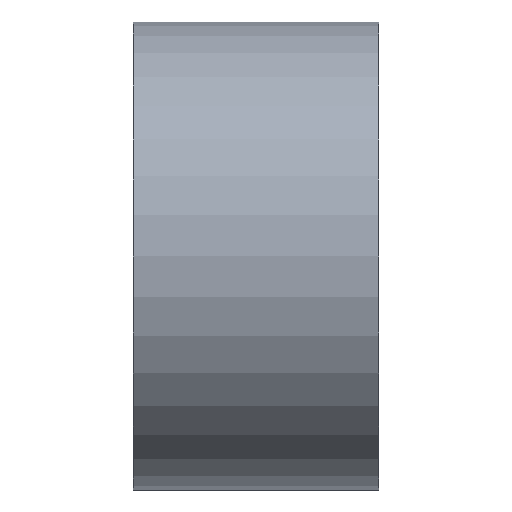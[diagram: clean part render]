
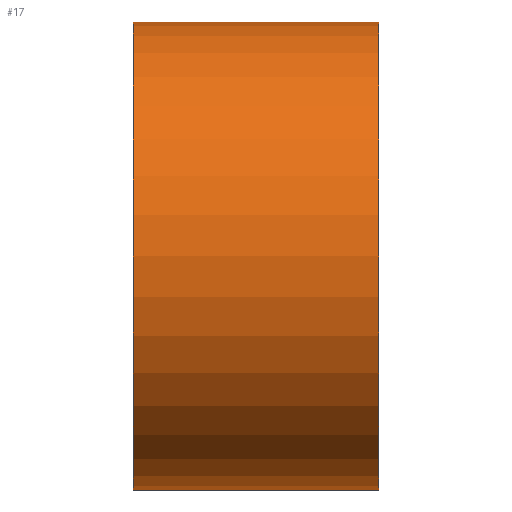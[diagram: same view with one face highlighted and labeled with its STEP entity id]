
A CAD part, front view. The second image highlights one B-rep face of the part: STEP entity #17.
In plain terms, the highlighted cylindrical face has radius 40 mm (diameter 80 mm), a full revolution.
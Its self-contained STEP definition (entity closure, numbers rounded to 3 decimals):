
#17 = ADVANCED_FACE('',(#18),#31,.T.);
#18 = FACE_BOUND('',#19,.T.);
#19 = EDGE_LOOP('',(#20,#54,#77,#104));
#20 = ORIENTED_EDGE('',*,*,#21,.F.);
#21 = EDGE_CURVE('',#22,#22,#24,.T.);
#22 = VERTEX_POINT('',#23);
#23 = CARTESIAN_POINT('',(294.,0.,-40.));
#24 = SURFACE_CURVE('',#25,(#30,#42),.PCURVE_S1.);
#25 = CIRCLE('',#26,40.);
#26 = AXIS2_PLACEMENT_3D('',#27,#28,#29);
#27 = CARTESIAN_POINT('',(294.,0.,0.));
#28 = DIRECTION('',(1.,-0.,0.));
#29 = DIRECTION('',(0.,0.,-1.));
#30 = PCURVE('',#31,#36);
#31 = CYLINDRICAL_SURFACE('',#32,40.);
#32 = AXIS2_PLACEMENT_3D('',#33,#34,#35);
#33 = CARTESIAN_POINT('',(252.,0.,0.));
#34 = DIRECTION('',(1.,0.,0.));
#35 = DIRECTION('',(0.,0.,-1.));
#36 = DEFINITIONAL_REPRESENTATION('',(#37),#41);
#37 = LINE('',#38,#39);
#38 = CARTESIAN_POINT('',(0.,42.));
#39 = VECTOR('',#40,1.);
#40 = DIRECTION('',(1.,0.));
#41 = ( GEOMETRIC_REPRESENTATION_CONTEXT(2) 
PARAMETRIC_REPRESENTATION_CONTEXT() REPRESENTATION_CONTEXT('2D SPACE',''
  ) );
#42 = PCURVE('',#43,#48);
#43 = PLANE('',#44);
#44 = AXIS2_PLACEMENT_3D('',#45,#46,#47);
#45 = CARTESIAN_POINT('',(294.,0.,0.));
#46 = DIRECTION('',(1.,0.,0.));
#47 = DIRECTION('',(0.,0.,-1.));
#48 = DEFINITIONAL_REPRESENTATION('',(#49),#53);
#49 = CIRCLE('',#50,40.);
#50 = AXIS2_PLACEMENT_2D('',#51,#52);
#51 = CARTESIAN_POINT('',(0.,0.));
#52 = DIRECTION('',(1.,0.));
#53 = ( GEOMETRIC_REPRESENTATION_CONTEXT(2) 
PARAMETRIC_REPRESENTATION_CONTEXT() REPRESENTATION_CONTEXT('2D SPACE',''
  ) );
#54 = ORIENTED_EDGE('',*,*,#55,.F.);
#55 = EDGE_CURVE('',#56,#22,#58,.T.);
#56 = VERTEX_POINT('',#57);
#57 = CARTESIAN_POINT('',(252.,0.,-40.));
#58 = SEAM_CURVE('',#59,(#63,#70),.PCURVE_S1.);
#59 = LINE('',#60,#61);
#60 = CARTESIAN_POINT('',(252.,0.,-40.));
#61 = VECTOR('',#62,1.);
#62 = DIRECTION('',(1.,0.,0.));
#63 = PCURVE('',#31,#64);
#64 = DEFINITIONAL_REPRESENTATION('',(#65),#69);
#65 = LINE('',#66,#67);
#66 = CARTESIAN_POINT('',(6.283,-0.));
#67 = VECTOR('',#68,1.);
#68 = DIRECTION('',(0.,1.));
#69 = ( GEOMETRIC_REPRESENTATION_CONTEXT(2) 
PARAMETRIC_REPRESENTATION_CONTEXT() REPRESENTATION_CONTEXT('2D SPACE',''
  ) );
#70 = PCURVE('',#31,#71);
#71 = DEFINITIONAL_REPRESENTATION('',(#72),#76);
#72 = LINE('',#73,#74);
#73 = CARTESIAN_POINT('',(0.,-0.));
#74 = VECTOR('',#75,1.);
#75 = DIRECTION('',(0.,1.));
#76 = ( GEOMETRIC_REPRESENTATION_CONTEXT(2) 
PARAMETRIC_REPRESENTATION_CONTEXT() REPRESENTATION_CONTEXT('2D SPACE',''
  ) );
#77 = ORIENTED_EDGE('',*,*,#78,.T.);
#78 = EDGE_CURVE('',#56,#56,#79,.T.);
#79 = SURFACE_CURVE('',#80,(#85,#92),.PCURVE_S1.);
#80 = CIRCLE('',#81,40.);
#81 = AXIS2_PLACEMENT_3D('',#82,#83,#84);
#82 = CARTESIAN_POINT('',(252.,0.,0.));
#83 = DIRECTION('',(1.,-0.,0.));
#84 = DIRECTION('',(0.,0.,-1.));
#85 = PCURVE('',#31,#86);
#86 = DEFINITIONAL_REPRESENTATION('',(#87),#91);
#87 = LINE('',#88,#89);
#88 = CARTESIAN_POINT('',(0.,0.));
#89 = VECTOR('',#90,1.);
#90 = DIRECTION('',(1.,0.));
#91 = ( GEOMETRIC_REPRESENTATION_CONTEXT(2) 
PARAMETRIC_REPRESENTATION_CONTEXT() REPRESENTATION_CONTEXT('2D SPACE',''
  ) );
#92 = PCURVE('',#93,#98);
#93 = PLANE('',#94);
#94 = AXIS2_PLACEMENT_3D('',#95,#96,#97);
#95 = CARTESIAN_POINT('',(252.,0.,0.));
#96 = DIRECTION('',(1.,0.,0.));
#97 = DIRECTION('',(0.,0.,-1.));
#98 = DEFINITIONAL_REPRESENTATION('',(#99),#103);
#99 = CIRCLE('',#100,40.);
#100 = AXIS2_PLACEMENT_2D('',#101,#102);
#101 = CARTESIAN_POINT('',(0.,0.));
#102 = DIRECTION('',(1.,0.));
#103 = ( GEOMETRIC_REPRESENTATION_CONTEXT(2) 
PARAMETRIC_REPRESENTATION_CONTEXT() REPRESENTATION_CONTEXT('2D SPACE',''
  ) );
#104 = ORIENTED_EDGE('',*,*,#55,.T.);
